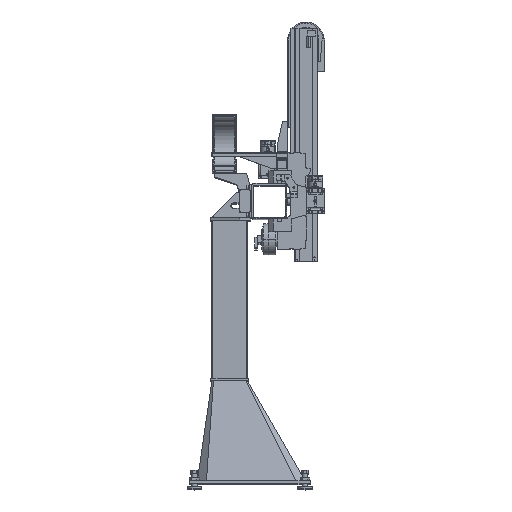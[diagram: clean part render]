
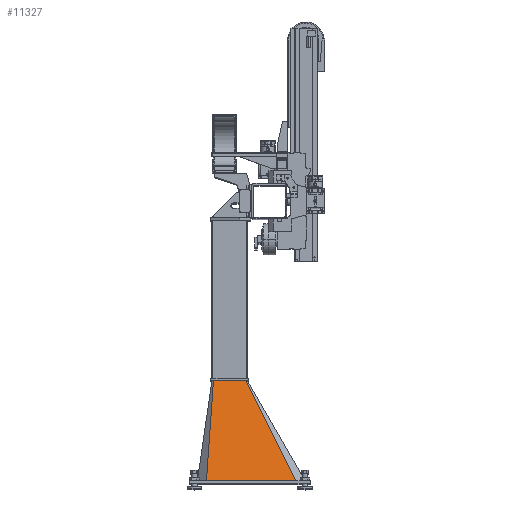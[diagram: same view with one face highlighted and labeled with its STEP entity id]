
A CAD part, top view. The second image highlights one B-rep face of the part: STEP entity #11327.
In plain terms, the highlighted planar face has unit normal (0, 0.22, 0.976) as drawn and (-0.976, 0.22, 0) by its records, which use the part's own axes.
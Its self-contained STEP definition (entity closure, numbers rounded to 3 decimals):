
#1730 = CARTESIAN_POINT ( 'NONE',  ( -175., 1030., -160. ) ) ;
#1990 = ORIENTED_EDGE ( 'NONE', *, *, #22322, .F. ) ;
#3998 = FACE_OUTER_BOUND ( 'NONE', #57080, .T. ) ;
#6600 = VECTOR ( 'NONE', #39302, 1000. ) ;
#8153 = LINE ( 'NONE', #29112, #66070 ) ;
#11327 = ADVANCED_FACE ( 'NONE', ( #3998 ), #13794, .T. ) ;
#11351 = CARTESIAN_POINT ( 'NONE',  ( -400., 30., -230. ) ) ;
#12968 = EDGE_CURVE ( 'NONE', #39153, #35092, #8153, .T. ) ;
#13794 = PLANE ( 'NONE',  #40320 ) ;
#19409 = CARTESIAN_POINT ( 'NONE',  ( -387.151, 87.109, 0. ) ) ;
#21550 = LINE ( 'NONE', #11351, #6600 ) ;
#22322 = EDGE_CURVE ( 'NONE', #35092, #57723, #52559, .T. ) ;
#25071 = DIRECTION ( 'NONE',  ( -0.22, -0.976, 0. ) ) ;
#25681 = ORIENTED_EDGE ( 'NONE', *, *, #53505, .T. ) ;
#26791 = VECTOR ( 'NONE', #29920, 1000. ) ;
#27509 = CARTESIAN_POINT ( 'NONE',  ( -175., 1030., -160. ) ) ;
#28818 = CARTESIAN_POINT ( 'NONE',  ( -400., 30., -230. ) ) ;
#29112 = CARTESIAN_POINT ( 'NONE',  ( -175., 1030., 160. ) ) ;
#29920 = DIRECTION ( 'NONE',  ( -0.219, -0.973, -0.068 ) ) ;
#34272 = EDGE_CURVE ( 'NONE', #39153, #36630, #41680, .T. ) ;
#35092 = VERTEX_POINT ( 'NONE', #55821 ) ;
#36630 = VERTEX_POINT ( 'NONE', #28818 ) ;
#39153 = VERTEX_POINT ( 'NONE', #27509 ) ;
#39302 = DIRECTION ( 'NONE',  ( 0., 0., 1. ) ) ;
#40320 = AXIS2_PLACEMENT_3D ( 'NONE', #19409, #58673, #25071 ) ;
#41680 = LINE ( 'NONE', #1730, #26791 ) ;
#44336 = CARTESIAN_POINT ( 'NONE',  ( -175., 1030., 160. ) ) ;
#47563 = ORIENTED_EDGE ( 'NONE', *, *, #34272, .T. ) ;
#52559 = LINE ( 'NONE', #44336, #62242 ) ;
#53505 = EDGE_CURVE ( 'NONE', #36630, #57723, #21550, .T. ) ;
#55821 = CARTESIAN_POINT ( 'NONE',  ( -175., 1030., 160. ) ) ;
#57080 = EDGE_LOOP ( 'NONE', ( #47563, #25681, #1990, #58329 ) ) ;
#57723 = VERTEX_POINT ( 'NONE', #58999 ) ;
#58329 = ORIENTED_EDGE ( 'NONE', *, *, #12968, .F. ) ;
#58673 = DIRECTION ( 'NONE',  ( -0.976, 0.22, 0. ) ) ;
#58999 = CARTESIAN_POINT ( 'NONE',  ( -400., 30., 660. ) ) ;
#61033 = DIRECTION ( 'NONE',  ( -0.197, -0.877, 0.438 ) ) ;
#62242 = VECTOR ( 'NONE', #61033, 1000. ) ;
#62754 = DIRECTION ( 'NONE',  ( 0., 0., 1. ) ) ;
#66070 = VECTOR ( 'NONE', #62754, 1000. ) ;
